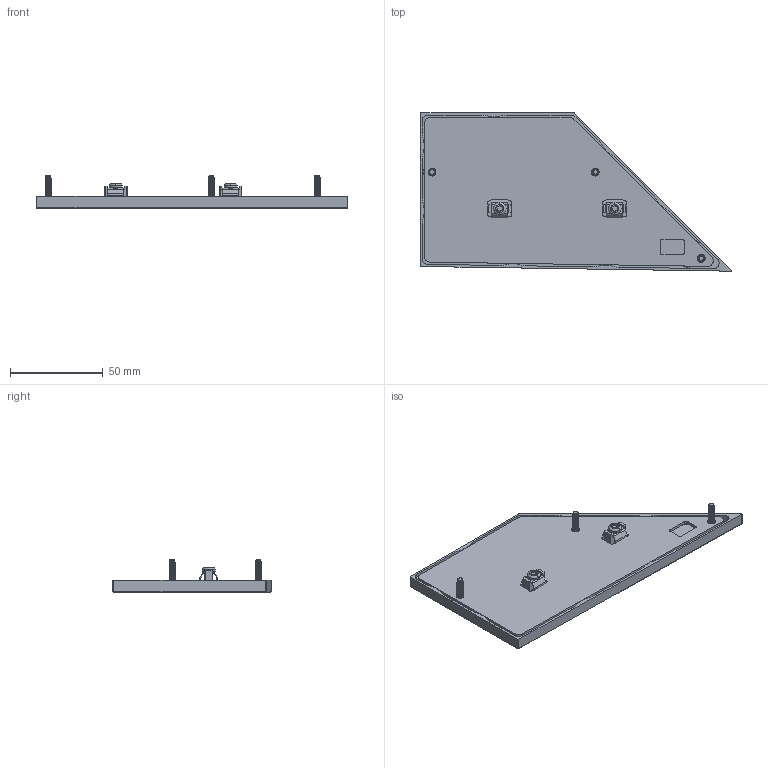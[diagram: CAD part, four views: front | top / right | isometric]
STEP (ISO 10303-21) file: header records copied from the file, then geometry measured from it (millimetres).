
FILE_DESCRIPTION (( 'STEP AP203' ), '1' );
FILE_NAME ('TROV SLIM KNIFE EDGE RIGHT ENDCAP.STEP', '2023-05-24T20:41:15', ( '' ), ( '' ), 'SwSTEP 2.0', 'SolidWorks 2022', '' );
FILE_SCHEMA (( 'CONFIG_CONTROL_DESIGN' ));
Length unit declared in the file: millimetre
Products named in the file (7): MCP-000418-00_MCP-000418-00; PLA-000090-00; BKT-000316-00; SCW-000393-00_94209A090; TROV SLIM KNIFE EDGE RIGHT ENDCAP; ASY-006858-00; SCW-000357-00_94209A080
Assembly tree (10 placements, depth 3):
  TROV SLIM KNIFE EDGE RIGHT ENDCAP
    SCW-000393-00_94209A090  x3
    PLA-000090-00
    ASY-006858-00
      MCP-000418-00_MCP-000418-00
      BKT-000316-00  x2
      SCW-000357-00_94209A080  x2
Bounding box: 168.28 x 85.42 x 17.7 mm (x, y, z)
Volume: 44830.9 mm3; surface area: 47536.2 mm2
Topology: 9 solids, 9 shells, 902 faces, 2546 edges, 1670 vertices
Faces by surface type: cylinder 687, plane 142, cone 39, torus 20, bspline 11, sphere 3
Entity records: 22223 total; most frequent: CARTESIAN_POINT 10684, ORIENTED_EDGE 2466, DIRECTION 1985, EDGE_CURVE 1233, VERTEX_POINT 808, AXIS2_PLACEMENT_3D 727, LINE 531, VECTOR 531
